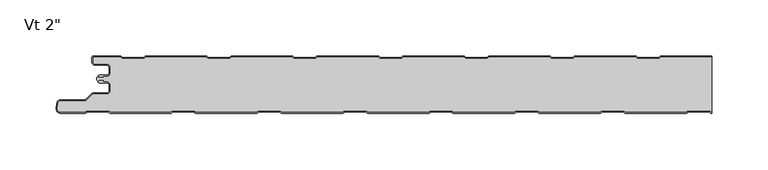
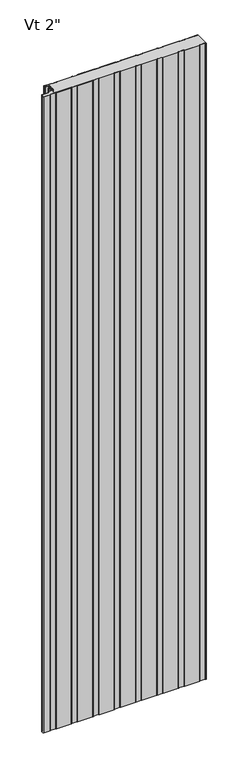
"""IFC4 building model written with IfcOpenShell, lengths in millimetres: plate geometry."""

from ifc_helpers import new_model, si_unit, point, frame, frame_2d, origin, origin_with_axes, place, context, project, spatial, polyline, circle_curve, trimmed, segment, composite_curve, outline, extrude, source, transform, mapped, element, save
from ifc_brep_helpers import plane_surface, cylinder_surface, revolved_surface, advanced_brep


def plate_d5faf714(model_context):
    return source(origin(), model_context, "Body", "SolidModel", [
        extrude(outline(composite_curve([segment(polyline([(-271.7683, -22.4760161), (-272.7999998, -21.4443162), (-272.7999998, -19.0391752), (-271.7686882, -18.0078635)]), True, "CONTINUOUS"), segment(trimmed(circle_curve(frame_2d((-270.768691, -18.0078576)), 0.9999972), [point((-271.7686882, -18.0078635))], [point((-270.768691, -19.0078547))], True, "CARTESIAN"), True, "CONTINUOUS"), segment(polyline([(-270.768691, -19.0078547), (-266.7684873, -19.0078547), (-266.7684873, -18.0078602), (-264.0762775, -18.0078602)]), True, "CONTINUOUS"), segment(trimmed(circle_curve(frame_2d((-264.0762775, -14.7078645)), 3.2999957), [point((-264.0762775, -18.0078602))], [point((-260.7762818, -14.7078645))], True, "CARTESIAN"), True, "CONTINUOUS"), segment(polyline([(-260.7762818, -14.7078645), (-260.7762818, -10.3078733)]), True, "CONTINUOUS"), segment(trimmed(circle_curve(frame_2d((-264.0762777, -10.3078733)), 3.2999959), [point((-260.7762818, -10.3078733))], [point((-264.0762777, -7.0078774))], True, "CARTESIAN"), True, "CONTINUOUS"), segment(polyline([(-264.0762777, -7.0078774), (-274.4962562, -7.0078774)]), True, "CONTINUOUS"), segment(trimmed(circle_curve(frame_2d((-274.4962562, -5.2378832)), 1.7699942), [point((-274.4962562, -7.0078774))], [point((-276.2662504, -5.2378832))], False, "CARTESIAN"), True, "CONTINUOUS"), segment(polyline([(-276.2662504, -5.2378832), (-276.2662504, -1.0063359), (-251.7659738, -1.0063359), (-250.3803312, -2.206575), (-231.0051649, -2.206575), (-229.6195319, -1.0063443), (-175.5661165, -1.0063443), (-174.1804836, -2.206575), (-154.8053173, -2.206575), (-153.4196843, -1.0063443), (-99.3662689, -1.0063443), (-97.980636, -2.206575), (-78.6054697, -2.206575), (-77.2198367, -1.0063443), (-23.1664213, -1.0063443), (-21.7807884, -2.206575), (-2.4056221, -2.206575), (-1.0199891, -1.0063443), (53.0334263, -1.0063443), (54.4190592, -2.206575), (73.7942255, -2.206575), (75.1798585, -1.0063443), (129.2332739, -1.0063443), (130.6189068, -2.206575), (149.9940731, -2.206575), (151.3797061, -1.0063443), (205.4331215, -1.0063443), (206.8187544, -2.206575), (226.1939207, -2.206575), (227.5795537, -1.0063443), (272.7999998, -1.0063443), (272.7999998, -49.8), (272.2405555, -49.8), (271.0403248, -48.5997693), (251.3209123, -48.5997693), (250.1206816, -49.8), (196.0405499, -49.8), (194.8403192, -48.5997693), (175.1209066, -48.5997693), (173.9206759, -49.8), (119.8405442, -49.8), (118.6403135, -48.5997693), (98.920901, -48.5997693), (97.7206703, -49.8), (43.6405385, -49.8), (42.4403078, -48.5997693), (22.7208953, -48.5997693), (21.5206646, -49.8), (-32.5594672, -49.8), (-33.7596979, -48.5997693), (-53.4791104, -48.5997693), (-54.6793411, -49.8), (-108.7594729, -49.8), (-109.9597036, -48.5997693), (-129.6791161, -48.5997693), (-130.8793468, -49.8), (-184.9594786, -49.8), (-186.1597093, -48.5997693), (-205.8791218, -48.5997693), (-207.0793525, -49.8), (-261.1594843, -49.8), (-262.359715, -48.5997693), (-282.0791275, -48.5997693), (-283.279096, -49.7997378), (-305.2521175, -49.7997378)]), True, "CONTINUOUS"), segment(trimmed(circle_curve(frame_2d((-305.2521175, -47.2294985)), 2.5702393), [point((-305.2521175, -49.7997378))], [point((-307.8125697, -47.0054129))], False, "CARTESIAN"), True, "CONTINUOUS"), segment(polyline([(-307.8125697, -47.0054129), (-307.3765707, -42.023592)]), True, "CONTINUOUS"), segment(trimmed(circle_curve(frame_2d((-304.7198391, -42.5049826)), 2.6999926), [point((-307.3765707, -42.023592))], [point((-304.7198391, -39.80499))], False, "CARTESIAN"), True, "CONTINUOUS"), segment(polyline([(-304.7198391, -39.80499), (-282.6247094, -39.80499), (-277.1226383, -34.3029189)]), True, "CONTINUOUS"), segment(trimmed(circle_curve(frame_2d((-275.9205606, -35.5049966)), 1.6999946), [point((-277.1226383, -34.3029189))], [point((-275.9205606, -33.805002))], False, "CARTESIAN"), True, "CONTINUOUS"), segment(polyline([(-275.9205606, -33.805002), (-264.1096715, -33.805002)]), True, "CONTINUOUS"), segment(trimmed(circle_curve(frame_2d((-264.1096715, -30.4550067)), 3.3499953), [point((-264.1096715, -33.805002))], [point((-260.7596762, -30.4550067))], True, "CARTESIAN"), True, "CONTINUOUS"), segment(polyline([(-260.7596762, -30.4550067), (-260.7596762, -26.0550155)]), True, "CONTINUOUS"), segment(trimmed(circle_curve(frame_2d((-264.1096715, -26.0550155)), 3.3499953), [point((-260.7596762, -26.0550155))], [point((-264.1096715, -22.7050202))], True, "CARTESIAN"), True, "CONTINUOUS"), segment(polyline([(-264.1096715, -22.7050202), (-266.8087826, -22.7050202), (-266.8087826, -21.3065413), (-270.567176, -21.3065413)]), True, "CONTINUOUS"), segment(trimmed(circle_curve(frame_2d((-270.5686906, -22.506538)), 1.1999976), [point((-270.567176, -21.3065413))], [point((-271.7683, -22.4760161))], True, "CARTESIAN"), True, "CONTINUOUS")], self_intersect=False)), origin_with_axes(), (0.0, 0.0, 1.0), 2400.0),
        advanced_brep(
        [(-270.768691, -17.0015159, 2400.0), (-271.7686883, -18.0015191, 2400.0), (-270.768691, -19.0015105, 2400.0), (-266.7684874, -19.0015105, 2400.0), (-266.7684874, -18.0015159, 2400.0), (-264.0762776, -18.0015159, 2400.0), (-260.7762819, -14.7015202, 2400.0), (-260.7762819, -10.301529, 2400.0), (-264.0762774, -7.0015335, 2400.0), (-274.4962563, -7.0015335, 2400.0), (-276.2662505, -5.2315393, 2400.0), (-276.2662505, -0.9999916, 2400.0), (-251.7659738, -0.9999916, 2400.0), (-250.3803312, -2.2002307, 2400.0), (-231.0051649, -2.2002307, 2400.0), (-229.619532, -1.0, 2400.0), (-175.5661166, -1.0, 2400.0), (-174.1804836, -2.2002307, 2400.0), (-154.8053173, -2.2002307, 2400.0), (-153.4196844, -1.0, 2400.0), (-99.366269, -1.0, 2400.0), (-97.980636, -2.2002307, 2400.0), (-78.6054697, -2.2002307, 2400.0), (-77.2198368, -1.0, 2400.0), (-23.1664214, -1.0, 2400.0), (-21.7807884, -2.2002307, 2400.0), (-2.4056221, -2.2002307, 2400.0), (-1.0199892, -1.0, 2400.0), (53.0334262, -1.0, 2400.0), (54.4190592, -2.2002307, 2400.0), (73.7942255, -2.2002307, 2400.0), (75.1798584, -1.0, 2400.0), (129.2332738, -1.0, 2400.0), (130.6189068, -2.2002307, 2400.0), (149.9940731, -2.2002307, 2400.0), (151.379706, -1.0, 2400.0), (205.4331214, -1.0, 2400.0), (206.8187544, -2.2002307, 2400.0), (226.1939207, -2.2002307, 2400.0), (227.5795536, -1.0, 2400.0), (272.7999998, -1.0, 2400.0), (272.7999998, 0.0, 2400.0), (227.7287048, 0.0, 2400.0), (226.8120879, -0.3417885, 2400.0), (225.8210403, -1.2002307, 2400.0), (207.1916348, -1.2002307, 2400.0), (206.2005872, -0.3417885, 2400.0), (205.2839703, 0.0, 2400.0), (151.5288572, 0.0, 2400.0), (150.6122403, -0.3417885, 2400.0), (149.6211927, -1.2002307, 2400.0), (130.9917872, -1.2002307, 2400.0), (130.0007396, -0.3417885, 2400.0), (129.0841227, 0.0, 2400.0), (75.3290096, 0.0, 2400.0), (74.4123927, -0.3417885, 2400.0), (73.4213451, -1.2002307, 2400.0), (54.7919396, -1.2002307, 2400.0), (53.800892, -0.3417885, 2400.0), (52.8842751, 0.0, 2400.0), (-0.870838, 0.0, 2400.0), (-1.7874549, -0.3417885, 2400.0), (-2.7785025, -1.2002307, 2400.0), (-21.407908, -1.2002307, 2400.0), (-22.3989556, -0.3417885, 2400.0), (-23.3155725, 0.0, 2400.0), (-77.0706856, 0.0, 2400.0), (-77.9873025, -0.3417885, 2400.0), (-78.9783501, -1.2002307, 2400.0), (-97.6077556, -1.2002307, 2400.0), (-98.5988032, -0.3417885, 2400.0), (-99.5154201, 0.0, 2400.0), (-153.2705332, 0.0, 2400.0), (-154.1871501, -0.3417885, 2400.0), (-155.1781977, -1.2002307, 2400.0), (-173.8076032, -1.2002307, 2400.0), (-174.7986508, -0.3417885, 2400.0), (-175.7152677, 0.0, 2400.0), (-229.4703808, 0.0, 2400.0), (-230.3869977, -0.3417885, 2400.0), (-231.3780453, -1.2002307, 2400.0), (-250.0074508, -1.2002307, 2400.0), (-250.9984984, -0.3417885, 2400.0), (-251.9152067, 0.0, 2400.0), (-275.8662543, 8.4e-06, 2400.0), (-277.2662505, -1.3999878, 2400.0), (-277.2662505, -5.2315393, 2400.0), (-274.4962563, -8.0015335, 2400.0), (-264.0762774, -8.0015335, 2400.0), (-261.7762819, -10.301529, 2400.0), (-261.7762819, -14.7015202, 2400.0), (-264.0762776, -17.0015159, 2400.0), (-270.768691, -17.0015159, 0.0), (-264.0762776, -17.0015159, 0.0), (-261.7762819, -14.7015202, 0.0), (-261.7762819, -10.301529, 0.0), (-264.0762774, -8.0015335, 0.0), (-274.4962563, -8.0015335, 0.0), (-277.2662505, -5.2315393, 0.0), (-277.2662505, -1.3999878, 0.0), (-275.8662543, 8.4e-06, 0.0), (-251.9151153, 8.4e-06, 0.0), (-250.9984984, -0.3417885, 0.0), (-250.0074508, -1.2002307, 0.0), (-231.3780453, -1.2002307, 0.0), (-230.3869977, -0.3417885, 0.0), (-229.4703808, 0.0, 0.0), (-175.7152677, 0.0, 0.0), (-174.7986508, -0.3417885, 0.0), (-173.8076032, -1.2002307, 0.0), (-155.1781977, -1.2002307, 0.0), (-154.1871501, -0.3417885, 0.0), (-153.2705332, 0.0, 0.0), (-99.5154201, 0.0, 0.0), (-98.5988032, -0.3417885, 0.0), (-97.6077556, -1.2002307, 0.0), (-78.9783501, -1.2002307, 0.0), (-77.9873025, -0.3417885, 0.0), (-77.0706856, 0.0, 0.0), (-23.3155725, 0.0, 0.0), (-22.3989556, -0.3417885, 0.0), (-21.407908, -1.2002307, 0.0), (-2.7785025, -1.2002307, 0.0), (-1.7874549, -0.3417885, 0.0), (-0.870838, 0.0, 0.0), (52.8842751, 0.0, 0.0), (53.800892, -0.3417885, 0.0), (54.7919396, -1.2002307, 0.0), (73.4213451, -1.2002307, 0.0), (74.4123927, -0.3417885, 0.0), (75.3290096, 0.0, 0.0), (129.0841227, 0.0, 0.0), (130.0007396, -0.3417885, 0.0), (130.9917872, -1.2002307, 0.0), (149.6211927, -1.2002307, 0.0), (150.6122403, -0.3417885, 0.0), (151.5288572, 0.0, 0.0), (205.2839703, 0.0, 0.0), (206.2005872, -0.3417885, 0.0), (207.1916348, -1.2002307, 0.0), (225.8210403, -1.2002307, 0.0), (226.8120879, -0.3417885, 0.0), (227.7287048, 0.0, 0.0), (272.7999998, 0.0, 0.0), (272.7999998, -1.0, 0.0), (227.5795536, -1.0, 0.0), (226.1939207, -2.2002307, 0.0), (206.8187544, -2.2002307, 0.0), (205.4331214, -1.0, 0.0), (151.379706, -1.0, 0.0), (149.9940731, -2.2002307, 0.0), (130.6189068, -2.2002307, 0.0), (129.2332738, -1.0, 0.0), (75.1798584, -1.0, 0.0), (73.7942255, -2.2002307, 0.0), (54.4190592, -2.2002307, 0.0), (53.0334262, -1.0, 0.0), (-1.0199892, -1.0, 0.0), (-2.4056221, -2.2002307, 0.0), (-21.7807884, -2.2002307, 0.0), (-23.1664214, -1.0, 0.0), (-77.2198368, -1.0, 0.0), (-78.6054697, -2.2002307, 0.0), (-97.980636, -2.2002307, 0.0), (-99.366269, -1.0, 0.0), (-153.4196844, -1.0, 0.0), (-154.8053173, -2.2002307, 0.0), (-174.1804836, -2.2002307, 0.0), (-175.5661166, -1.0, 0.0), (-229.619532, -1.0, 0.0), (-231.0051649, -2.2002307, 0.0), (-250.3803312, -2.2002307, 0.0), (-251.7659738, -0.9999916, 0.0), (-276.2662505, -0.9999916, 0.0), (-276.2662505, -5.2315393, 0.0), (-274.4962563, -7.0015335, 0.0), (-264.0762774, -7.0015335, 0.0), (-260.7762819, -10.301529, 0.0), (-260.7762819, -14.7015202, 0.0), (-264.0762776, -18.0015159, 0.0), (-266.7684874, -18.0015159, 0.0), (-266.7684874, -19.0015105, 0.0), (-270.768691, -19.0015105, 0.0), (-271.7686882, -18.0015192, 0.0)],
        [
            (0, 1, circle_curve(frame((-270.768691, -18.0015132, 2400.0), z_axis=(0.0, 0.0, 1.0), x_axis=(1.0, 0.0, 0.0)), 0.9999973)),
            (1, 2, circle_curve(frame((-270.768691, -18.0015133, 2400.0), z_axis=(0.0, 0.0, 1.0), x_axis=(1.0, 0.0, 0.0)), 0.9999972)),
            (2, 3),
            (3, 4),
            (4, 5),
            (5, 6, circle_curve(frame((-264.0762776, -14.7015202, 2400.0), z_axis=(0.0, 0.0, 1.0), x_axis=(1.0, 0.0, 0.0)), 3.2999957)),
            (6, 7),
            (7, 8, circle_curve(frame((-264.0762774, -10.301529, 2400.0), z_axis=(0.0, 0.0, 1.0), x_axis=(1.0, 0.0, 0.0)), 3.2999955)),
            (8, 9),
            (9, 10, circle_curve(frame((-274.4962563, -5.2315393, 2400.0), z_axis=(0.0, 0.0, -1.0), x_axis=(1.0, 0.0, 0.0)), 1.7699942)),
            (10, 11),
            (11, 12),
            (12, 13),
            (13, 14),
            (14, 15),
            (15, 16),
            (16, 17),
            (17, 18),
            (18, 19),
            (19, 20),
            (20, 21),
            (21, 22),
            (22, 23),
            (23, 24),
            (24, 25),
            (25, 26),
            (26, 27),
            (27, 28),
            (28, 29),
            (29, 30),
            (30, 31),
            (31, 32),
            (32, 33),
            (33, 34),
            (34, 35),
            (35, 36),
            (36, 37),
            (37, 38),
            (38, 39),
            (39, 40),
            (40, 41),
            (41, 42),
            (42, 43, circle_curve(frame((227.7287048, -1.3999972, 2400.0), z_axis=(0.0, 0.0, 1.0), x_axis=(1.0, 0.0, 0.0)), 1.3999972)),
            (43, 44),
            (44, 45),
            (45, 46),
            (46, 47, circle_curve(frame((205.2839703, -1.3999972, 2400.0), z_axis=(0.0, 0.0, 1.0), x_axis=(1.0, 0.0, 0.0)), 1.3999972)),
            (47, 48),
            (48, 49, circle_curve(frame((151.5288572, -1.3999972, 2400.0), z_axis=(0.0, 0.0, 1.0), x_axis=(1.0, 0.0, 0.0)), 1.3999972)),
            (49, 50),
            (50, 51),
            (51, 52),
            (52, 53, circle_curve(frame((129.0841227, -1.3999972, 2400.0), z_axis=(0.0, 0.0, 1.0), x_axis=(1.0, 0.0, 0.0)), 1.3999972)),
            (53, 54),
            (54, 55, circle_curve(frame((75.3290096, -1.3999972, 2400.0), z_axis=(0.0, 0.0, 1.0), x_axis=(1.0, 0.0, 0.0)), 1.3999972)),
            (55, 56),
            (56, 57),
            (57, 58),
            (58, 59, circle_curve(frame((52.8842751, -1.3999972, 2400.0), z_axis=(0.0, 0.0, 1.0), x_axis=(1.0, 0.0, 0.0)), 1.3999972)),
            (59, 60),
            (60, 61, circle_curve(frame((-0.870838, -1.3999972, 2400.0), z_axis=(0.0, 0.0, 1.0), x_axis=(1.0, 0.0, 0.0)), 1.3999972)),
            (61, 62),
            (62, 63),
            (63, 64),
            (64, 65, circle_curve(frame((-23.3155725, -1.3999972, 2400.0), z_axis=(0.0, 0.0, 1.0), x_axis=(1.0, 0.0, 0.0)), 1.3999972)),
            (65, 66),
            (66, 67, circle_curve(frame((-77.0706856, -1.3999972, 2400.0), z_axis=(0.0, 0.0, 1.0), x_axis=(1.0, 0.0, 0.0)), 1.3999972)),
            (67, 68),
            (68, 69),
            (69, 70),
            (70, 71, circle_curve(frame((-99.5154201, -1.3999972, 2400.0), z_axis=(0.0, 0.0, 1.0), x_axis=(1.0, 0.0, 0.0)), 1.3999972)),
            (71, 72),
            (72, 73, circle_curve(frame((-153.2705332, -1.3999972, 2400.0), z_axis=(0.0, 0.0, 1.0), x_axis=(1.0, 0.0, 0.0)), 1.3999972)),
            (73, 74),
            (74, 75),
            (75, 76),
            (76, 77, circle_curve(frame((-175.7152677, -1.3999972, 2400.0), z_axis=(0.0, 0.0, 1.0), x_axis=(1.0, 0.0, 0.0)), 1.3999972)),
            (77, 78),
            (78, 79, circle_curve(frame((-229.4703808, -1.3999972, 2400.0), z_axis=(0.0, 0.0, 1.0), x_axis=(1.0, 0.0, 0.0)), 1.3999972)),
            (79, 80),
            (80, 81),
            (81, 82),
            (82, 83, circle_curve(frame((-251.9151153, -1.3999972, 2400.0), z_axis=(0.0, 0.0, 1.0), x_axis=(1.0, 0.0, 0.0)), 1.3999972)),
            (83, 84),
            (84, 85, circle_curve(frame((-275.8662543, -1.3999878, 2400.0), z_axis=(0.0, 0.0, 1.0), x_axis=(1.0, 0.0, 0.0)), 1.3999962)),
            (85, 86),
            (86, 87, circle_curve(frame((-274.4962563, -5.2315393, 2400.0), z_axis=(0.0, 0.0, 1.0), x_axis=(1.0, 0.0, 0.0)), 2.7699942)),
            (87, 88),
            (88, 89, circle_curve(frame((-264.0762774, -10.301529, 2400.0), z_axis=(0.0, 0.0, -1.0), x_axis=(1.0, 0.0, 0.0)), 2.2999955)),
            (89, 90),
            (90, 91, circle_curve(frame((-264.0762776, -14.7015202, 2400.0), z_axis=(0.0, 0.0, -1.0), x_axis=(1.0, 0.0, 0.0)), 2.2999957)),
            (91, 0),
            (92, 93),
            (93, 94, circle_curve(frame((-264.0762776, -14.7015202, 0.0), z_axis=(0.0, 0.0, 1.0), x_axis=(1.0, 0.0, 0.0)), 2.2999957)),
            (94, 95),
            (95, 96, circle_curve(frame((-264.0762774, -10.301529, 0.0), z_axis=(0.0, 0.0, 1.0), x_axis=(1.0, 0.0, 0.0)), 2.2999955)),
            (96, 97),
            (97, 98, circle_curve(frame((-274.4962563, -5.2315393, 0.0), z_axis=(0.0, 0.0, -1.0), x_axis=(1.0, 0.0, 0.0)), 2.7699942)),
            (98, 99),
            (99, 100, circle_curve(frame((-275.8662543, -1.3999878, 0.0), z_axis=(0.0, 0.0, -1.0), x_axis=(1.0, 0.0, 0.0)), 1.3999962)),
            (100, 101),
            (101, 102, circle_curve(frame((-251.9151153, -1.3999972, 0.0), z_axis=(0.0, 0.0, -1.0), x_axis=(1.0, 0.0, 0.0)), 1.3999972)),
            (102, 103),
            (103, 104),
            (104, 105),
            (105, 106, circle_curve(frame((-229.4703808, -1.3999972, 0.0), z_axis=(0.0, 0.0, -1.0), x_axis=(1.0, 0.0, 0.0)), 1.3999972)),
            (106, 107),
            (107, 108, circle_curve(frame((-175.7152677, -1.3999972, 0.0), z_axis=(0.0, 0.0, -1.0), x_axis=(1.0, 0.0, 0.0)), 1.3999972)),
            (108, 109),
            (109, 110),
            (110, 111),
            (111, 112, circle_curve(frame((-153.2705332, -1.3999972, 0.0), z_axis=(0.0, 0.0, -1.0), x_axis=(1.0, 0.0, 0.0)), 1.3999972)),
            (112, 113),
            (113, 114, circle_curve(frame((-99.5154201, -1.3999972, 0.0), z_axis=(0.0, 0.0, -1.0), x_axis=(1.0, 0.0, 0.0)), 1.3999972)),
            (114, 115),
            (115, 116),
            (116, 117),
            (117, 118, circle_curve(frame((-77.0706856, -1.3999972, 0.0), z_axis=(0.0, 0.0, -1.0), x_axis=(1.0, 0.0, 0.0)), 1.3999972)),
            (118, 119),
            (119, 120, circle_curve(frame((-23.3155725, -1.3999972, 0.0), z_axis=(0.0, 0.0, -1.0), x_axis=(1.0, 0.0, 0.0)), 1.3999972)),
            (120, 121),
            (121, 122),
            (122, 123),
            (123, 124, circle_curve(frame((-0.870838, -1.3999972, 0.0), z_axis=(0.0, 0.0, -1.0), x_axis=(1.0, 0.0, 0.0)), 1.3999972)),
            (124, 125),
            (125, 126, circle_curve(frame((52.8842751, -1.3999972, 0.0), z_axis=(0.0, 0.0, -1.0), x_axis=(1.0, 0.0, 0.0)), 1.3999972)),
            (126, 127),
            (127, 128),
            (128, 129),
            (129, 130, circle_curve(frame((75.3290096, -1.3999972, 0.0), z_axis=(0.0, 0.0, -1.0), x_axis=(1.0, 0.0, 0.0)), 1.3999972)),
            (130, 131),
            (131, 132, circle_curve(frame((129.0841227, -1.3999972, 0.0), z_axis=(0.0, 0.0, -1.0), x_axis=(1.0, 0.0, 0.0)), 1.3999972)),
            (132, 133),
            (133, 134),
            (134, 135),
            (135, 136, circle_curve(frame((151.5288572, -1.3999972, 0.0), z_axis=(0.0, 0.0, -1.0), x_axis=(1.0, 0.0, 0.0)), 1.3999972)),
            (136, 137),
            (137, 138, circle_curve(frame((205.2839703, -1.3999972, 0.0), z_axis=(0.0, 0.0, -1.0), x_axis=(1.0, 0.0, 0.0)), 1.3999972)),
            (138, 139),
            (139, 140),
            (140, 141),
            (141, 142, circle_curve(frame((227.7287048, -1.3999972, 0.0), z_axis=(0.0, 0.0, -1.0), x_axis=(1.0, 0.0, 0.0)), 1.3999972)),
            (142, 143),
            (143, 144),
            (144, 145),
            (145, 146),
            (146, 147),
            (147, 148),
            (148, 149),
            (149, 150),
            (150, 151),
            (151, 152),
            (152, 153),
            (153, 154),
            (154, 155),
            (155, 156),
            (156, 157),
            (157, 158),
            (158, 159),
            (159, 160),
            (160, 161),
            (161, 162),
            (162, 163),
            (163, 164),
            (164, 165),
            (165, 166),
            (166, 167),
            (167, 168),
            (168, 169),
            (169, 170),
            (170, 171),
            (171, 172),
            (172, 173),
            (173, 174),
            (174, 175, circle_curve(frame((-274.4962563, -5.2315393, 0.0), z_axis=(0.0, 0.0, 1.0), x_axis=(1.0, 0.0, 0.0)), 1.7699942)),
            (175, 176),
            (176, 177, circle_curve(frame((-264.0762774, -10.301529, 0.0), z_axis=(0.0, 0.0, -1.0), x_axis=(1.0, 0.0, 0.0)), 3.2999955)),
            (177, 178),
            (178, 179, circle_curve(frame((-264.0762776, -14.7015202, 0.0), z_axis=(0.0, 0.0, -1.0), x_axis=(1.0, 0.0, 0.0)), 3.2999957)),
            (179, 180),
            (180, 181),
            (181, 182),
            (182, 183, circle_curve(frame((-270.768691, -18.0015133, 0.0), z_axis=(0.0, 0.0, -1.0), x_axis=(1.0, 0.0, 0.0)), 0.9999972)),
            (183, 92, circle_curve(frame((-270.768691, -18.0015132, 0.0), z_axis=(0.0, 0.0, -1.0), x_axis=(1.0, 0.0, 0.0)), 0.9999973)),
            (91, 93),
            (92, 0),
            (90, 94),
            (89, 95),
            (88, 96),
            (87, 97),
            (86, 98),
            (85, 99),
            (84, 100),
            (83, 101),
            (10, 174),
            (173, 11),
            (9, 175),
            (8, 176),
            (7, 177),
            (6, 178),
            (5, 179),
            (4, 180),
            (3, 181),
            (2, 182),
            (1, 183),
            (40, 144),
            (143, 41),
            (82, 102),
            (81, 103),
            (80, 104),
            (79, 105),
            (78, 106),
            (77, 107),
            (76, 108),
            (75, 109),
            (74, 110),
            (73, 111),
            (72, 112),
            (71, 113),
            (70, 114),
            (69, 115),
            (68, 116),
            (67, 117),
            (66, 118),
            (65, 119),
            (64, 120),
            (63, 121),
            (62, 122),
            (61, 123),
            (60, 124),
            (59, 125),
            (58, 126),
            (57, 127),
            (56, 128),
            (55, 129),
            (54, 130),
            (53, 131),
            (52, 132),
            (51, 133),
            (50, 134),
            (49, 135),
            (48, 136),
            (47, 137),
            (46, 138),
            (45, 139),
            (44, 140),
            (43, 141),
            (42, 142),
            (39, 145),
            (38, 146),
            (37, 147),
            (36, 148),
            (35, 149),
            (34, 150),
            (33, 151),
            (32, 152),
            (31, 153),
            (30, 154),
            (29, 155),
            (28, 156),
            (27, 157),
            (26, 158),
            (25, 159),
            (24, 160),
            (23, 161),
            (22, 162),
            (21, 163),
            (20, 164),
            (19, 165),
            (18, 166),
            (17, 167),
            (16, 168),
            (15, 169),
            (14, 170),
            (13, 171),
            (12, 172),
        ],
        [
            plane_surface(frame((184.4000002, 0.0, 2400.0), z_axis=(0.0, 0.0, 1.0), x_axis=(0.0, 1.0, 0.0))),
            plane_surface(frame((184.4000002, 0.0, 0.0), z_axis=(0.0, 0.0, -1.0), x_axis=(0.0, 1.0, 0.0))),
            plane_surface(frame((-270.768691, -17.0015159, 2400.0), z_axis=(0.0, 1.0, 0.0), x_axis=(0.0, 0.0, -1.0))),
            revolved_surface(polyline([(-261.7762819, -14.7015202, 0.0), (-261.7762819, -14.7015202, 2400.0)]), (-264.0762776, -14.7015202, 2400.0), (0.0, 0.0, -1.0)),
            plane_surface(frame((-261.7762819, -14.7015202, 2400.0), z_axis=(-1.0, 0.0, 0.0), x_axis=(0.0, 0.0, -1.0))),
            revolved_surface(polyline([(-261.77628189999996, -10.301529, 0.0), (-261.77628189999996, -10.301529, 2400.0)]), (-264.0762774, -10.301529, 2400.0), (0.0, 0.0, -1.0)),
            plane_surface(frame((-264.0762774, -8.0015335, 2400.0), z_axis=(0.0, -1.0, 0.0), x_axis=(0.0, 0.0, -1.0))),
            cylinder_surface(frame((-274.4962563, -5.2315393, 2400.0), z_axis=(0.0, 0.0, 1.0), x_axis=(1.0, 0.0, 0.0)), 2.7699942),
            plane_surface(frame((-277.2662505, -5.2315393, 2400.0), z_axis=(-1.0, 0.0, 0.0), x_axis=(0.0, 0.0, -1.0))),
            cylinder_surface(frame((-275.8662543, -1.3999878, 2400.0), z_axis=(0.0, 0.0, 1.0), x_axis=(1.0, 0.0, 0.0)), 1.3999962),
            plane_surface(frame((-275.8662543, 8.4e-06, 2400.0), z_axis=(0.0, 1.0, 0.0), x_axis=(0.0, 0.0, -1.0))),
            plane_surface(frame((-276.2662505, -0.9999916, 2400.0), z_axis=(1.0, 0.0, 0.0), x_axis=(0.0, 0.0, -1.0))),
            revolved_surface(polyline([(-272.72626210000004, -5.2315393, 0.0), (-272.72626210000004, -5.2315393, 2400.0)]), (-274.4962563, -5.2315393, 2400.0), (0.0, 0.0, -1.0)),
            plane_surface(frame((-274.4962563, -7.0015335, 2400.0), z_axis=(0.0, 1.0, 0.0), x_axis=(0.0, 0.0, -1.0))),
            cylinder_surface(frame((-264.0762774, -10.301529, 2400.0), z_axis=(0.0, 0.0, 1.0), x_axis=(1.0, 0.0, 0.0)), 3.2999955),
            plane_surface(frame((-260.7762819, -10.301529, 2400.0), z_axis=(1.0, 0.0, 0.0), x_axis=(0.0, 0.0, -1.0))),
            cylinder_surface(frame((-264.0762776, -14.7015202, 2400.0), z_axis=(0.0, 0.0, 1.0), x_axis=(1.0, 0.0, 0.0)), 3.2999957),
            plane_surface(frame((-264.0762776, -18.0015159, 2400.0), z_axis=(0.0, -1.0, 0.0), x_axis=(0.0, 0.0, -1.0))),
            plane_surface(frame((-266.7684874, -18.0015159, 2400.0), z_axis=(1.0, 0.0, 0.0), x_axis=(0.0, 0.0, -1.0))),
            plane_surface(frame((-266.7684874, -19.0015105, 2400.0), z_axis=(0.0, -1.0, 0.0), x_axis=(0.0, 0.0, -1.0))),
            cylinder_surface(frame((-270.768691, -18.0015133, 2400.0), z_axis=(0.0, 0.0, 1.0), x_axis=(1.0, 0.0, 0.0)), 0.9999972),
            cylinder_surface(frame((-270.768691, -18.0015132, 2400.0), z_axis=(0.0, 0.0, 1.0), x_axis=(1.0, 0.0, 0.0)), 0.9999973),
            plane_surface(frame((272.7999998, -60.8, 2400.0), z_axis=(1.0, 0.0, 0.0), x_axis=(0.0, 0.0, -1.0))),
            cylinder_surface(frame((-251.9151153, -1.3999972, 2400.0), z_axis=(0.0, 0.0, 1.0), x_axis=(1.0, 0.0, 0.0)), 1.3999972),
            plane_surface(frame((-250.9984984, -0.3417885, 2400.0), z_axis=(0.6547276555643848, 0.7558648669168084, 0.0), x_axis=(0.0, 0.0, -1.0))),
            plane_surface(frame((-240.6927481, -1.2002307, 2400.0), z_axis=(0.0, 1.0, 0.0), x_axis=(0.0, 0.0, -1.0))),
            plane_surface(frame((-231.3780453, -1.2002307, 2400.0), z_axis=(-0.6547276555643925, 0.7558648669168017, 0.0), x_axis=(0.0, 0.0, -1.0))),
            cylinder_surface(frame((-229.4703808, -1.3999972, 2400.0), z_axis=(0.0, 0.0, 1.0), x_axis=(1.0, 0.0, 0.0)), 1.3999972),
            plane_surface(frame((-229.4703808, 0.0, 2400.0), z_axis=(0.0, 1.0, 0.0), x_axis=(0.0, 0.0, -1.0))),
            cylinder_surface(frame((-175.7152677, -1.3999972, 2400.0), z_axis=(0.0, 0.0, 1.0), x_axis=(1.0, 0.0, 0.0)), 1.3999972),
            plane_surface(frame((-174.7986508, -0.3417885, 2400.0), z_axis=(0.6547276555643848, 0.7558648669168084, 0.0), x_axis=(0.0, 0.0, -1.0))),
            plane_surface(frame((-164.4929005, -1.2002307, 2400.0), z_axis=(0.0, 1.0, 0.0), x_axis=(0.0, 0.0, -1.0))),
            plane_surface(frame((-155.1781977, -1.2002307, 2400.0), z_axis=(-0.6547276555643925, 0.7558648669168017, 0.0), x_axis=(0.0, 0.0, -1.0))),
            cylinder_surface(frame((-153.2705332, -1.3999972, 2400.0), z_axis=(0.0, 0.0, 1.0), x_axis=(1.0, 0.0, 0.0)), 1.3999972),
            plane_surface(frame((-153.2705332, 0.0, 2400.0), z_axis=(0.0, 1.0, 0.0), x_axis=(0.0, 0.0, -1.0))),
            cylinder_surface(frame((-99.5154201, -1.3999972, 2400.0), z_axis=(0.0, 0.0, 1.0), x_axis=(1.0, 0.0, 0.0)), 1.3999972),
            plane_surface(frame((-98.5988032, -0.3417885, 2400.0), z_axis=(0.6547276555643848, 0.7558648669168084, 0.0), x_axis=(0.0, 0.0, -1.0))),
            plane_surface(frame((-88.2930529, -1.2002307, 2400.0), z_axis=(0.0, 1.0, 0.0), x_axis=(0.0, 0.0, -1.0))),
            plane_surface(frame((-78.9783501, -1.2002307, 2400.0), z_axis=(-0.6547276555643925, 0.7558648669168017, 0.0), x_axis=(0.0, 0.0, -1.0))),
            cylinder_surface(frame((-77.0706856, -1.3999972, 2400.0), z_axis=(0.0, 0.0, 1.0), x_axis=(1.0, 0.0, 0.0)), 1.3999972),
            plane_surface(frame((-77.0706856, 0.0, 2400.0), z_axis=(0.0, 1.0, 0.0), x_axis=(0.0, 0.0, -1.0))),
            cylinder_surface(frame((-23.3155725, -1.3999972, 2400.0), z_axis=(0.0, 0.0, 1.0), x_axis=(1.0, 0.0, 0.0)), 1.3999972),
            plane_surface(frame((-22.3989556, -0.3417885, 2400.0), z_axis=(0.6547276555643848, 0.7558648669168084, 0.0), x_axis=(0.0, 0.0, -1.0))),
            plane_surface(frame((-12.0932053, -1.2002307, 2400.0), z_axis=(0.0, 1.0, 0.0), x_axis=(0.0, 0.0, -1.0))),
            plane_surface(frame((-2.7785025, -1.2002307, 2400.0), z_axis=(-0.6547276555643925, 0.7558648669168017, 0.0), x_axis=(0.0, 0.0, -1.0))),
            cylinder_surface(frame((-0.870838, -1.3999972, 2400.0), z_axis=(0.0, 0.0, 1.0), x_axis=(1.0, 0.0, 0.0)), 1.3999972),
            plane_surface(frame((-0.870838, 0.0, 2400.0), z_axis=(0.0, 1.0, 0.0), x_axis=(0.0, 0.0, -1.0))),
            cylinder_surface(frame((52.8842751, -1.3999972, 2400.0), z_axis=(0.0, 0.0, 1.0), x_axis=(1.0, 0.0, 0.0)), 1.3999972),
            plane_surface(frame((53.800892, -0.3417885, 2400.0), z_axis=(0.6547276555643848, 0.7558648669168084, 0.0), x_axis=(0.0, 0.0, -1.0))),
            plane_surface(frame((64.1066423, -1.2002307, 2400.0), z_axis=(0.0, 1.0, 0.0), x_axis=(0.0, 0.0, -1.0))),
            plane_surface(frame((73.4213451, -1.2002307, 2400.0), z_axis=(-0.6547276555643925, 0.7558648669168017, 0.0), x_axis=(0.0, 0.0, -1.0))),
            cylinder_surface(frame((75.3290096, -1.3999972, 2400.0), z_axis=(0.0, 0.0, 1.0), x_axis=(1.0, 0.0, 0.0)), 1.3999972),
            plane_surface(frame((75.3290096, 0.0, 2400.0), z_axis=(0.0, 1.0, 0.0), x_axis=(0.0, 0.0, -1.0))),
            cylinder_surface(frame((129.0841227, -1.3999972, 2400.0), z_axis=(0.0, 0.0, 1.0), x_axis=(1.0, 0.0, 0.0)), 1.3999972),
            plane_surface(frame((130.0007396, -0.3417885, 2400.0), z_axis=(0.6547276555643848, 0.7558648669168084, 0.0), x_axis=(0.0, 0.0, -1.0))),
            plane_surface(frame((140.3064899, -1.2002307, 2400.0), z_axis=(0.0, 1.0, 0.0), x_axis=(0.0, 0.0, -1.0))),
            plane_surface(frame((149.6211927, -1.2002307, 2400.0), z_axis=(-0.6547276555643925, 0.7558648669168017, 0.0), x_axis=(0.0, 0.0, -1.0))),
            cylinder_surface(frame((151.5288572, -1.3999972, 2400.0), z_axis=(0.0, 0.0, 1.0), x_axis=(1.0, 0.0, 0.0)), 1.3999972),
            plane_surface(frame((151.5288572, 0.0, 2400.0), z_axis=(0.0, 1.0, 0.0), x_axis=(0.0, 0.0, -1.0))),
            cylinder_surface(frame((205.2839703, -1.3999972, 2400.0), z_axis=(0.0, 0.0, 1.0), x_axis=(1.0, 0.0, 0.0)), 1.3999972),
            plane_surface(frame((206.2005872, -0.3417885, 2400.0), z_axis=(0.6547276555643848, 0.7558648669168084, 0.0), x_axis=(0.0, 0.0, -1.0))),
            plane_surface(frame((216.5063375, -1.2002307, 2400.0), z_axis=(0.0, 1.0, 0.0), x_axis=(0.0, 0.0, -1.0))),
            plane_surface(frame((225.8210403, -1.2002307, 2400.0), z_axis=(-0.6547276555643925, 0.7558648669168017, 0.0), x_axis=(0.0, 0.0, -1.0))),
            cylinder_surface(frame((227.7287048, -1.3999972, 2400.0), z_axis=(0.0, 0.0, 1.0), x_axis=(1.0, 0.0, 0.0)), 1.3999972),
            plane_surface(frame((227.7287048, 0.0, 2400.0), z_axis=(0.0, 1.0, 0.0), x_axis=(0.0, 0.0, -1.0))),
            plane_surface(frame((281.632969, -1.0, 2400.0), z_axis=(0.0, -1.0, 0.0), x_axis=(0.0, 0.0, -1.0))),
            plane_surface(frame((227.5795536, -1.0, 2400.0), z_axis=(0.6547276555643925, -0.7558648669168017, 0.0), x_axis=(0.0, 0.0, -1.0))),
            plane_surface(frame((226.1939207, -2.2002307, 2400.0), z_axis=(0.0, -1.0, 0.0), x_axis=(0.0, 0.0, -1.0))),
            plane_surface(frame((206.8187544, -2.2002307, 2400.0), z_axis=(-0.6547276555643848, -0.7558648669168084, 0.0), x_axis=(0.0, 0.0, -1.0))),
            plane_surface(frame((205.4331214, -1.0, 2400.0), z_axis=(0.0, -1.0, 0.0), x_axis=(0.0, 0.0, -1.0))),
            plane_surface(frame((151.379706, -1.0, 2400.0), z_axis=(0.6547276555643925, -0.7558648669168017, 0.0), x_axis=(0.0, 0.0, -1.0))),
            plane_surface(frame((149.9940731, -2.2002307, 2400.0), z_axis=(0.0, -1.0, 0.0), x_axis=(0.0, 0.0, -1.0))),
            plane_surface(frame((130.6189068, -2.2002307, 2400.0), z_axis=(-0.6547276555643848, -0.7558648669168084, 0.0), x_axis=(0.0, 0.0, -1.0))),
            plane_surface(frame((129.2332738, -1.0, 2400.0), z_axis=(0.0, -1.0, 0.0), x_axis=(0.0, 0.0, -1.0))),
            plane_surface(frame((75.1798584, -1.0, 2400.0), z_axis=(0.6547276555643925, -0.7558648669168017, 0.0), x_axis=(0.0, 0.0, -1.0))),
            plane_surface(frame((73.7942255, -2.2002307, 2400.0), z_axis=(0.0, -1.0, 0.0), x_axis=(0.0, 0.0, -1.0))),
            plane_surface(frame((54.4190592, -2.2002307, 2400.0), z_axis=(-0.6547276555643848, -0.7558648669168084, 0.0), x_axis=(0.0, 0.0, -1.0))),
            plane_surface(frame((53.0334262, -1.0, 2400.0), z_axis=(0.0, -1.0, 0.0), x_axis=(0.0, 0.0, -1.0))),
            plane_surface(frame((-1.0199892, -1.0, 2400.0), z_axis=(0.6547276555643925, -0.7558648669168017, 0.0), x_axis=(0.0, 0.0, -1.0))),
            plane_surface(frame((-2.4056221, -2.2002307, 2400.0), z_axis=(0.0, -1.0, 0.0), x_axis=(0.0, 0.0, -1.0))),
            plane_surface(frame((-21.7807884, -2.2002307, 2400.0), z_axis=(-0.6547276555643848, -0.7558648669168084, 0.0), x_axis=(0.0, 0.0, -1.0))),
            plane_surface(frame((-23.1664214, -1.0, 2400.0), z_axis=(0.0, -1.0, 0.0), x_axis=(0.0, 0.0, -1.0))),
            plane_surface(frame((-77.2198368, -1.0, 2400.0), z_axis=(0.6547276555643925, -0.7558648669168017, 0.0), x_axis=(0.0, 0.0, -1.0))),
            plane_surface(frame((-78.6054697, -2.2002307, 2400.0), z_axis=(0.0, -1.0, 0.0), x_axis=(0.0, 0.0, -1.0))),
            plane_surface(frame((-97.980636, -2.2002307, 2400.0), z_axis=(-0.6547276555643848, -0.7558648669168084, 0.0), x_axis=(0.0, 0.0, -1.0))),
            plane_surface(frame((-99.366269, -1.0, 2400.0), z_axis=(0.0, -1.0, 0.0), x_axis=(0.0, 0.0, -1.0))),
            plane_surface(frame((-153.4196844, -1.0, 2400.0), z_axis=(0.6547276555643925, -0.7558648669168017, 0.0), x_axis=(0.0, 0.0, -1.0))),
            plane_surface(frame((-154.8053173, -2.2002307, 2400.0), z_axis=(0.0, -1.0, 0.0), x_axis=(0.0, 0.0, -1.0))),
            plane_surface(frame((-174.1804836, -2.2002307, 2400.0), z_axis=(-0.6547276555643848, -0.7558648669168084, 0.0), x_axis=(0.0, 0.0, -1.0))),
            plane_surface(frame((-175.5661166, -1.0, 2400.0), z_axis=(0.0, -1.0, 0.0), x_axis=(0.0, 0.0, -1.0))),
            plane_surface(frame((-229.619532, -1.0, 2400.0), z_axis=(0.6547276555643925, -0.7558648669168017, 0.0), x_axis=(0.0, 0.0, -1.0))),
            plane_surface(frame((-231.0051649, -2.2002307, 2400.0), z_axis=(0.0, -1.0, 0.0), x_axis=(0.0, 0.0, -1.0))),
            plane_surface(frame((-250.3803312, -2.2002307, 2400.0), z_axis=(-0.6547276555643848, -0.7558648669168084, 0.0), x_axis=(0.0, 0.0, -1.0))),
            plane_surface(frame((-251.7659738, -0.9999916, 2400.0), z_axis=(0.0, -1.0, 0.0), x_axis=(0.0, 0.0, -1.0))),
        ],
        [
            (0, [[1, 2, 3, 4, 5, 6, 7, 8, 9, 10, 11, 12, 13, 14, 15, 16, 17, 18, 19, 20, 21, 22, 23, 24, 25, 26, 27, 28, 29, 30, 31, 32, 33, 34, 35, 36, 37, 38, 39, 40, 41, 42, 43, 44, 45, 46, 47, 48, 49, 50, 51, 52, 53, 54, 55, 56, 57, 58, 59, 60, 61, 62, 63, 64, 65, 66, 67, 68, 69, 70, 71, 72, 73, 74, 75, 76, 77, 78, 79, 80, 81, 82, 83, 84, 85, 86, 87, 88, 89, 90, 91, 92]]),
            (1, [[93, 94, 95, 96, 97, 98, 99, 100, 101, 102, 103, 104, 105, 106, 107, 108, 109, 110, 111, 112, 113, 114, 115, 116, 117, 118, 119, 120, 121, 122, 123, 124, 125, 126, 127, 128, 129, 130, 131, 132, 133, 134, 135, 136, 137, 138, 139, 140, 141, 142, 143, 144, 145, 146, 147, 148, 149, 150, 151, 152, 153, 154, 155, 156, 157, 158, 159, 160, 161, 162, 163, 164, 165, 166, 167, 168, 169, 170, 171, 172, 173, 174, 175, 176, 177, 178, 179, 180, 181, 182, 183, 184]]),
            (2, [[185, -93, 186, -92]]),
            (3, [[187, -94, -185, -91]]),
            (4, [[188, -95, -187, -90]]),
            (5, [[189, -96, -188, -89]]),
            (6, [[190, -97, -189, -88]]),
            (7, [[191, -98, -190, -87]]),
            (8, [[192, -99, -191, -86]]),
            (9, [[193, -100, -192, -85]]),
            (10, [[194, -101, -193, -84]]),
            (11, [[195, -174, 196, -11]]),
            (12, [[197, -175, -195, -10]]),
            (13, [[198, -176, -197, -9]]),
            (14, [[199, -177, -198, -8]]),
            (15, [[200, -178, -199, -7]]),
            (16, [[201, -179, -200, -6]]),
            (17, [[202, -180, -201, -5]]),
            (18, [[203, -181, -202, -4]]),
            (19, [[204, -182, -203, -3]]),
            (20, [[205, -183, -204, -2]]),
            (21, [[-186, -184, -205, -1]]),
            (22, [[206, -144, 207, -41]]),
            (23, [[208, -102, -194, -83]]),
            (24, [[209, -103, -208, -82]]),
            (25, [[210, -104, -209, -81]]),
            (26, [[211, -105, -210, -80]]),
            (27, [[212, -106, -211, -79]]),
            (28, [[213, -107, -212, -78]]),
            (29, [[214, -108, -213, -77]]),
            (30, [[215, -109, -214, -76]]),
            (31, [[216, -110, -215, -75]]),
            (32, [[217, -111, -216, -74]]),
            (33, [[218, -112, -217, -73]]),
            (34, [[219, -113, -218, -72]]),
            (35, [[220, -114, -219, -71]]),
            (36, [[221, -115, -220, -70]]),
            (37, [[222, -116, -221, -69]]),
            (38, [[223, -117, -222, -68]]),
            (39, [[224, -118, -223, -67]]),
            (40, [[225, -119, -224, -66]]),
            (41, [[226, -120, -225, -65]]),
            (42, [[227, -121, -226, -64]]),
            (43, [[228, -122, -227, -63]]),
            (44, [[229, -123, -228, -62]]),
            (45, [[230, -124, -229, -61]]),
            (46, [[231, -125, -230, -60]]),
            (47, [[232, -126, -231, -59]]),
            (48, [[233, -127, -232, -58]]),
            (49, [[234, -128, -233, -57]]),
            (50, [[235, -129, -234, -56]]),
            (51, [[236, -130, -235, -55]]),
            (52, [[237, -131, -236, -54]]),
            (53, [[238, -132, -237, -53]]),
            (54, [[239, -133, -238, -52]]),
            (55, [[240, -134, -239, -51]]),
            (56, [[241, -135, -240, -50]]),
            (57, [[242, -136, -241, -49]]),
            (58, [[243, -137, -242, -48]]),
            (59, [[244, -138, -243, -47]]),
            (60, [[245, -139, -244, -46]]),
            (61, [[246, -140, -245, -45]]),
            (62, [[247, -141, -246, -44]]),
            (63, [[248, -142, -247, -43]]),
            (64, [[-42, -207, -143, -248]]),
            (65, [[-145, -206, -40, 249]]),
            (66, [[250, -146, -249, -39]]),
            (67, [[251, -147, -250, -38]]),
            (68, [[252, -148, -251, -37]]),
            (69, [[253, -149, -252, -36]]),
            (70, [[254, -150, -253, -35]]),
            (71, [[255, -151, -254, -34]]),
            (72, [[256, -152, -255, -33]]),
            (73, [[257, -153, -256, -32]]),
            (74, [[258, -154, -257, -31]]),
            (75, [[259, -155, -258, -30]]),
            (76, [[260, -156, -259, -29]]),
            (77, [[261, -157, -260, -28]]),
            (78, [[262, -158, -261, -27]]),
            (79, [[263, -159, -262, -26]]),
            (80, [[264, -160, -263, -25]]),
            (81, [[265, -161, -264, -24]]),
            (82, [[266, -162, -265, -23]]),
            (83, [[267, -163, -266, -22]]),
            (84, [[268, -164, -267, -21]]),
            (85, [[269, -165, -268, -20]]),
            (86, [[270, -166, -269, -19]]),
            (87, [[271, -167, -270, -18]]),
            (88, [[272, -168, -271, -17]]),
            (89, [[273, -169, -272, -16]]),
            (90, [[274, -170, -273, -15]]),
            (91, [[275, -171, -274, -14]]),
            (92, [[276, -172, -275, -13]]),
            (93, [[-196, -173, -276, -12]]),
        ],
    ),
        extrude(outline(composite_curve([segment(polyline([(-283.4415932, -50.7997378), (-305.2521175, -50.7997378)]), True, "CONTINUOUS"), segment(trimmed(circle_curve(frame_2d((-305.2521175, -47.2294985)), 3.5702393), [point((-305.2521175, -50.7997378))], [point((-308.8087619, -46.9182281))], False, "CARTESIAN"), True, "CONTINUOUS"), segment(polyline([(-308.8087619, -46.9182281), (-308.3690674, -41.8941815)]), True, "CONTINUOUS"), segment(trimmed(circle_curve(frame_2d((-304.7198391, -42.5049826)), 3.6999926), [point((-308.3690674, -41.8941815))], [point((-304.7198391, -38.80499))], False, "CARTESIAN"), True, "CONTINUOUS"), segment(polyline([(-304.7198391, -38.80499), (-283.5773995, -38.80499)]), True, "CONTINUOUS"), segment(trimmed(circle_curve(frame_2d((-283.5773995, -37.5049926)), 1.2999974), [point((-283.5773995, -38.80499))], [point((-282.6581626, -38.4242296))], True, "CARTESIAN"), True, "CONTINUOUS"), segment(polyline([(-282.6581626, -38.4242296), (-277.8297451, -33.5958121)]), True, "CONTINUOUS"), segment(trimmed(circle_curve(frame_2d((-275.9205606, -35.5049966)), 2.6999946), [point((-277.8297451, -33.5958121))], [point((-275.9205606, -32.805002))], False, "CARTESIAN"), True, "CONTINUOUS"), segment(polyline([(-275.9205606, -32.805002), (-264.1096715, -32.805002)]), True, "CONTINUOUS"), segment(trimmed(circle_curve(frame_2d((-264.1096715, -30.4550067)), 2.3499953), [point((-264.1096715, -32.805002))], [point((-261.7596762, -30.4550067))], True, "CARTESIAN"), True, "CONTINUOUS"), segment(polyline([(-261.7596762, -30.4550067), (-261.7596762, -26.0550155)]), True, "CONTINUOUS"), segment(trimmed(circle_curve(frame_2d((-264.1096715, -26.0550155)), 2.3499953), [point((-261.7596762, -26.0550155))], [point((-264.1096715, -23.7050202))], True, "CARTESIAN"), True, "CONTINUOUS"), segment(polyline([(-264.1096715, -23.7050202), (-270.6289777, -23.7050202)]), True, "CONTINUOUS"), segment(trimmed(circle_curve(frame_2d((-270.5686906, -22.506538)), 1.1999976), [point((-270.6289777, -23.7050202))], [point((-271.7683, -22.4760161))], False, "CARTESIAN"), True, "CONTINUOUS"), segment(trimmed(circle_curve(frame_2d((-270.5686906, -22.506538)), 1.1999976), [point((-271.7683, -22.4760161))], [point((-270.567176, -21.3065413))], False, "CARTESIAN"), True, "CONTINUOUS"), segment(polyline([(-270.567176, -21.3065413), (-266.8087826, -21.3065413), (-266.8087826, -22.7050202), (-264.1096715, -22.7050202)]), True, "CONTINUOUS"), segment(trimmed(circle_curve(frame_2d((-264.1096715, -26.0550155)), 3.3499953), [point((-264.1096715, -22.7050202))], [point((-260.7596762, -26.0550155))], False, "CARTESIAN"), True, "CONTINUOUS"), segment(polyline([(-260.7596762, -26.0550155), (-260.7596762, -30.4550067)]), True, "CONTINUOUS"), segment(trimmed(circle_curve(frame_2d((-264.1096715, -30.4550067)), 3.3499953), [point((-260.7596762, -30.4550067))], [point((-264.1096715, -33.805002))], False, "CARTESIAN"), True, "CONTINUOUS"), segment(polyline([(-264.1096715, -33.805002), (-275.9205606, -33.805002)]), True, "CONTINUOUS"), segment(trimmed(circle_curve(frame_2d((-275.9205606, -35.5049966)), 1.6999946), [point((-275.9205606, -33.805002))], [point((-277.1226383, -34.3029189))], True, "CARTESIAN"), True, "CONTINUOUS"), segment(polyline([(-277.1226383, -34.3029189), (-282.6247094, -39.80499), (-304.7198391, -39.80499)]), True, "CONTINUOUS"), segment(trimmed(circle_curve(frame_2d((-304.7198391, -42.5049826)), 2.6999926), [point((-304.7198391, -39.80499))], [point((-307.3765707, -42.023592))], True, "CARTESIAN"), True, "CONTINUOUS"), segment(polyline([(-307.3765707, -42.023592), (-307.8125697, -47.0054129)]), True, "CONTINUOUS"), segment(trimmed(circle_curve(frame_2d((-305.2521175, -47.2294985)), 2.5702393), [point((-307.8125697, -47.0054129))], [point((-305.2521175, -49.7997378))], True, "CARTESIAN"), True, "CONTINUOUS"), segment(polyline([(-305.2521175, -49.7997378), (-283.279096, -49.7997378), (-282.0791275, -48.5997693), (-262.359715, -48.5997693), (-261.1594843, -49.8), (-207.0793525, -49.8), (-205.8791218, -48.5997693), (-186.1597093, -48.5997693), (-184.9594786, -49.8), (-130.8793468, -49.8), (-129.6791161, -48.5997693), (-109.9597036, -48.5997693), (-108.7594729, -49.8), (-54.6793411, -49.8), (-53.4791104, -48.5997693), (-33.7596979, -48.5997693), (-32.5594672, -49.8), (21.5206646, -49.8), (22.7208953, -48.5997693), (42.4403078, -48.5997693), (43.6405385, -49.8), (97.7206703, -49.8), (98.920901, -48.5997693), (118.6403135, -48.5997693), (119.8405442, -49.8), (173.9206759, -49.8), (175.1209066, -48.5997693), (194.8403192, -48.5997693), (196.0405499, -49.8), (250.1206816, -49.8), (251.3209123, -48.5997693), (271.0403248, -48.5997693), (272.2405555, -49.8), (272.7999998, -49.8), (272.7999998, -50.8), (272.4096744, -50.8)]), True, "CONTINUOUS"), segment(trimmed(circle_curve(frame_2d((272.402021, -49.4000237)), 1.3999972), [point((272.4096744, -50.8))], [point((271.3579702, -50.3327349))], False, "CARTESIAN"), True, "CONTINUOUS"), segment(polyline([(271.3579702, -50.3327349), (270.6250046, -49.5997693), (251.7343354, -49.5997693), (251.0013908, -50.332714)]), True, "CONTINUOUS"), segment(trimmed(circle_curve(frame_2d((249.95734, -49.4000028)), 1.3999972), [point((251.0013908, -50.332714))], [point((249.95734, -50.8))], False, "CARTESIAN"), True, "CONTINUOUS"), segment(polyline([(249.95734, -50.8), (196.2098268, -50.8)]), True, "CONTINUOUS"), segment(trimmed(circle_curve(frame_2d((196.2021734, -49.4000237)), 1.3999972), [point((196.2098268, -50.8))], [point((195.1581226, -50.3327349))], False, "CARTESIAN"), True, "CONTINUOUS"), segment(polyline([(195.1581226, -50.3327349), (194.425157, -49.5997693), (175.5344878, -49.5997693), (174.8015432, -50.332714)]), True, "CONTINUOUS"), segment(trimmed(circle_curve(frame_2d((173.7574924, -49.4000028)), 1.3999972), [point((174.8015432, -50.332714))], [point((173.7574924, -50.8))], False, "CARTESIAN"), True, "CONTINUOUS"), segment(polyline([(173.7574924, -50.8), (120.0099792, -50.8)]), True, "CONTINUOUS"), segment(trimmed(circle_curve(frame_2d((120.0023258, -49.4000237)), 1.3999972), [point((120.0099792, -50.8))], [point((118.958275, -50.3327349))], False, "CARTESIAN"), True, "CONTINUOUS"), segment(polyline([(118.958275, -50.3327349), (118.2253094, -49.5997693), (99.3346402, -49.5997693), (98.6016956, -50.332714)]), True, "CONTINUOUS"), segment(trimmed(circle_curve(frame_2d((97.5576448, -49.4000028)), 1.3999972), [point((98.6016956, -50.332714))], [point((97.5576448, -50.8))], False, "CARTESIAN"), True, "CONTINUOUS"), segment(polyline([(97.5576448, -50.8), (43.8101316, -50.8)]), True, "CONTINUOUS"), segment(trimmed(circle_curve(frame_2d((43.8024782, -49.4000237)), 1.3999972), [point((43.8101316, -50.8))], [point((42.7584274, -50.3327349))], False, "CARTESIAN"), True, "CONTINUOUS"), segment(polyline([(42.7584274, -50.3327349), (42.0254618, -49.5997693), (23.1347926, -49.5997693), (22.401848, -50.332714)]), True, "CONTINUOUS"), segment(trimmed(circle_curve(frame_2d((21.3577972, -49.4000028)), 1.3999972), [point((22.401848, -50.332714))], [point((21.3577972, -50.8))], False, "CARTESIAN"), True, "CONTINUOUS"), segment(polyline([(21.3577972, -50.8), (-32.389716, -50.8)]), True, "CONTINUOUS"), segment(trimmed(circle_curve(frame_2d((-32.3973694, -49.4000237)), 1.3999972), [point((-32.389716, -50.8))], [point((-33.4414202, -50.3327349))], False, "CARTESIAN"), True, "CONTINUOUS"), segment(polyline([(-33.4414202, -50.3327349), (-34.1743858, -49.5997693), (-53.065055, -49.5997693), (-53.7979996, -50.332714)]), True, "CONTINUOUS"), segment(trimmed(circle_curve(frame_2d((-54.8420504, -49.4000028)), 1.3999972), [point((-53.7979996, -50.332714))], [point((-54.8420504, -50.8))], False, "CARTESIAN"), True, "CONTINUOUS"), segment(polyline([(-54.8420504, -50.8), (-108.5895636, -50.8)]), True, "CONTINUOUS"), segment(trimmed(circle_curve(frame_2d((-108.597217, -49.4000237)), 1.3999972), [point((-108.5895636, -50.8))], [point((-109.6412678, -50.3327349))], False, "CARTESIAN"), True, "CONTINUOUS"), segment(polyline([(-109.6412678, -50.3327349), (-110.3742334, -49.5997693), (-129.2649026, -49.5997693), (-129.9978472, -50.332714)]), True, "CONTINUOUS"), segment(trimmed(circle_curve(frame_2d((-131.041898, -49.4000028)), 1.3999972), [point((-129.9978472, -50.332714))], [point((-131.041898, -50.8))], False, "CARTESIAN"), True, "CONTINUOUS"), segment(polyline([(-131.041898, -50.8), (-184.7894112, -50.8)]), True, "CONTINUOUS"), segment(trimmed(circle_curve(frame_2d((-184.7970646, -49.4000237)), 1.3999972), [point((-184.7894112, -50.8))], [point((-185.8411154, -50.3327349))], False, "CARTESIAN"), True, "CONTINUOUS"), segment(polyline([(-185.8411154, -50.3327349), (-186.574081, -49.5997693), (-205.4647502, -49.5997693), (-206.1976948, -50.332714)]), True, "CONTINUOUS"), segment(trimmed(circle_curve(frame_2d((-207.2417456, -49.4000028)), 1.3999972), [point((-206.1976948, -50.332714))], [point((-207.2417456, -50.8))], False, "CARTESIAN"), True, "CONTINUOUS"), segment(polyline([(-207.2417456, -50.8), (-260.9892588, -50.8)]), True, "CONTINUOUS"), segment(trimmed(circle_curve(frame_2d((-260.9969122, -49.4000237)), 1.3999972), [point((-260.9892588, -50.8))], [point((-262.040963, -50.3327349))], False, "CARTESIAN"), True, "CONTINUOUS"), segment(polyline([(-262.040963, -50.3327349), (-262.7739286, -49.5997693), (-281.6649139, -49.5997693), (-282.3976402, -50.3324955)]), True, "CONTINUOUS"), segment(trimmed(circle_curve(frame_2d((-283.4415932, -49.3998717)), 1.3998661), [point((-282.3976402, -50.3324955))], [point((-283.4415932, -50.7997378))], False, "CARTESIAN"), True, "CONTINUOUS")], self_intersect=False)), origin_with_axes(), (0.0, 0.0, 1.0), 2400.0),
    ])


if __name__ == "__main__":
    model = new_model("IFC4")
    model_context = context("Model", 3, world=origin())
    ifc_project = project(units=[si_unit("LENGTHUNIT", "METRE", prefix="MILLI")], contexts=[model_context])
    site = spatial("IfcSite", under=ifc_project)
    building = spatial("IfcBuilding", under=site)
    placement = place(None, origin())
    plate_shape = plate_d5faf714(model_context)
    element("IfcPlate", 1, ObjectType="KIP-36-Karrier-KP-R19-CP-Vt-SL3-8in_SL : Vt 2\"", at=placement, inside=building, context=model_context, shape_type="MappedRepresentation", body=[
        mapped(plate_shape, transform((0.0, 0.0, 0.0), x_axis=(1.0, 0.0, 0.0), y_axis=(0.0, 1.0, 0.0), z_axis=(0.0, 0.0, 1.0))),
    ])
    save(model, "model.ifc")
